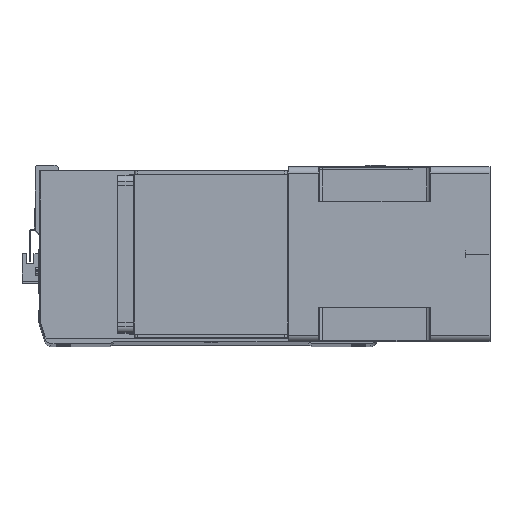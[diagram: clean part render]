
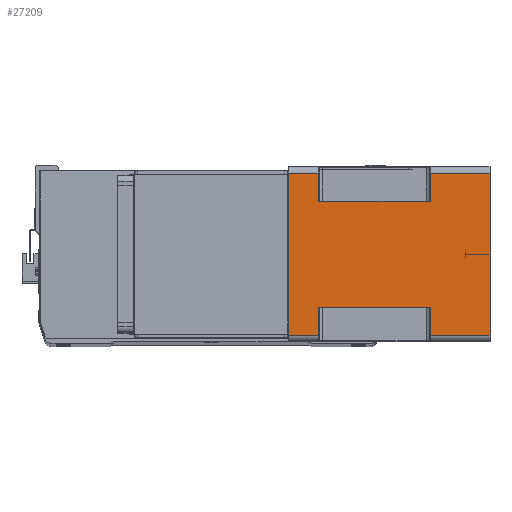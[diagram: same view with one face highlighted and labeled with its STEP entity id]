
A CAD part, top view. The second image highlights one B-rep face of the part: STEP entity #27209.
In plain terms, the highlighted planar face has unit normal (0, 0, 1) as drawn and (1, 0, 0) by its records, which use the part's own axes.
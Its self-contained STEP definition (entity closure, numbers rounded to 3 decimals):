
#202 = CARTESIAN_POINT ( 'NONE',  ( 71., 43., -115.5 ) ) ;
#413 = CARTESIAN_POINT ( 'NONE',  ( 71., -43., -115.5 ) ) ;
#479 = LINE ( 'NONE', #18800, #6119 ) ;
#1314 = DIRECTION ( 'NONE',  ( 0., 1., 0. ) ) ;
#1438 = VERTEX_POINT ( 'NONE', #4277 ) ;
#1885 = CARTESIAN_POINT ( 'NONE',  ( 71., 66., -164. ) ) ;
#2208 = CARTESIAN_POINT ( 'NONE',  ( 71., -66., -115.5 ) ) ;
#2446 = VECTOR ( 'NONE', #22531, 1000. ) ;
#2868 = LINE ( 'NONE', #4369, #30605 ) ;
#2968 = DIRECTION ( 'NONE',  ( 0., 1., 0. ) ) ;
#3056 = ORIENTED_EDGE ( 'NONE', *, *, #18939, .T. ) ;
#3149 = VECTOR ( 'NONE', #2968, 1000. ) ;
#3737 = VERTEX_POINT ( 'NONE', #27789 ) ;
#4277 = CARTESIAN_POINT ( 'NONE',  ( 71., -66., 0. ) ) ;
#4369 = CARTESIAN_POINT ( 'NONE',  ( 71., -43., -164. ) ) ;
#4829 = ORIENTED_EDGE ( 'NONE', *, *, #9706, .F. ) ;
#5000 = ORIENTED_EDGE ( 'NONE', *, *, #24201, .F. ) ;
#5315 = EDGE_CURVE ( 'NONE', #28330, #16804, #27332, .T. ) ;
#5541 = LINE ( 'NONE', #18426, #13731 ) ;
#6119 = VECTOR ( 'NONE', #16293, 1000. ) ;
#7164 = EDGE_CURVE ( 'NONE', #3737, #1438, #12137, .T. ) ;
#7246 = ORIENTED_EDGE ( 'NONE', *, *, #14702, .T. ) ;
#7456 = DIRECTION ( 'NONE',  ( 0., -1., 0. ) ) ;
#7630 = ORIENTED_EDGE ( 'NONE', *, *, #13333, .T. ) ;
#7692 = VECTOR ( 'NONE', #8899, 1000. ) ;
#7831 = LINE ( 'NONE', #202, #16404 ) ;
#8128 = VERTEX_POINT ( 'NONE', #30157 ) ;
#8899 = DIRECTION ( 'NONE',  ( 0., 1., 0. ) ) ;
#9082 = ORIENTED_EDGE ( 'NONE', *, *, #17500, .T. ) ;
#9534 = LINE ( 'NONE', #14760, #3149 ) ;
#9638 = ORIENTED_EDGE ( 'NONE', *, *, #30037, .F. ) ;
#9706 = EDGE_CURVE ( 'NONE', #1438, #8128, #30884, .T. ) ;
#10330 = LINE ( 'NONE', #23137, #24572 ) ;
#10345 = ORIENTED_EDGE ( 'NONE', *, *, #20127, .T. ) ;
#10494 = CARTESIAN_POINT ( 'NONE',  ( 71., -66., -164. ) ) ;
#11245 = PLANE ( 'NONE',  #23678 ) ;
#11298 = DIRECTION ( 'NONE',  ( 0., 1., 0. ) ) ;
#11577 = VECTOR ( 'NONE', #16995, 1000. ) ;
#12137 = LINE ( 'NONE', #10494, #2446 ) ;
#13333 = EDGE_CURVE ( 'NONE', #3737, #16564, #10330, .T. ) ;
#13731 = VECTOR ( 'NONE', #30383, 1000. ) ;
#13949 = CARTESIAN_POINT ( 'NONE',  ( 71., 43., -24.5 ) ) ;
#14702 = EDGE_CURVE ( 'NONE', #28330, #27538, #479, .T. ) ;
#14760 = CARTESIAN_POINT ( 'NONE',  ( 71., -66., -24.5 ) ) ;
#15164 = VERTEX_POINT ( 'NONE', #30695 ) ;
#15274 = VECTOR ( 'NONE', #22635, 1000. ) ;
#16293 = DIRECTION ( 'NONE',  ( 0., 1., 0. ) ) ;
#16316 = VECTOR ( 'NONE', #25517, 1000. ) ;
#16361 = EDGE_CURVE ( 'NONE', #15164, #17211, #7831, .T. ) ;
#16404 = VECTOR ( 'NONE', #7456, 1000. ) ;
#16564 = VERTEX_POINT ( 'NONE', #24698 ) ;
#16804 = VERTEX_POINT ( 'NONE', #2208 ) ;
#16995 = DIRECTION ( 'NONE',  ( 0., -1., 0. ) ) ;
#17078 = LINE ( 'NONE', #1885, #16316 ) ;
#17211 = VERTEX_POINT ( 'NONE', #18266 ) ;
#17500 = EDGE_CURVE ( 'NONE', #21352, #25387, #9534, .T. ) ;
#17523 = VECTOR ( 'NONE', #30018, 1000. ) ;
#18231 = CARTESIAN_POINT ( 'NONE',  ( 71., -66., -164. ) ) ;
#18266 = CARTESIAN_POINT ( 'NONE',  ( 71., 43., -115.5 ) ) ;
#18426 = CARTESIAN_POINT ( 'NONE',  ( 71., 66., -164. ) ) ;
#18661 = CARTESIAN_POINT ( 'NONE',  ( 71., -66., -164. ) ) ;
#18707 = FACE_OUTER_BOUND ( 'NONE', #29651, .T. ) ;
#18800 = CARTESIAN_POINT ( 'NONE',  ( 71., -66., -164. ) ) ;
#18939 = EDGE_CURVE ( 'NONE', #20458, #16804, #23219, .T. ) ;
#19939 = CARTESIAN_POINT ( 'NONE',  ( 71., 43., -164. ) ) ;
#20127 = EDGE_CURVE ( 'NONE', #27538, #15164, #5541, .T. ) ;
#20458 = VERTEX_POINT ( 'NONE', #413 ) ;
#20537 = LINE ( 'NONE', #19939, #17523 ) ;
#20731 = EDGE_CURVE ( 'NONE', #25387, #8128, #17078, .T. ) ;
#21011 = DIRECTION ( 'NONE',  ( 0., 0., 1. ) ) ;
#21352 = VERTEX_POINT ( 'NONE', #13949 ) ;
#22283 = CARTESIAN_POINT ( 'NONE',  ( 71., 66., -24.5 ) ) ;
#22531 = DIRECTION ( 'NONE',  ( 0., 0., 1. ) ) ;
#22635 = DIRECTION ( 'NONE',  ( 0., 0., 1. ) ) ;
#23137 = CARTESIAN_POINT ( 'NONE',  ( 71., -43., -24.5 ) ) ;
#23219 = LINE ( 'NONE', #24524, #11577 ) ;
#23678 = AXIS2_PLACEMENT_3D ( 'NONE', #27834, #27722, #1314 ) ;
#24189 = ORIENTED_EDGE ( 'NONE', *, *, #5315, .F. ) ;
#24201 = EDGE_CURVE ( 'NONE', #21352, #17211, #20537, .T. ) ;
#24524 = CARTESIAN_POINT ( 'NONE',  ( 71., -66., -115.5 ) ) ;
#24572 = VECTOR ( 'NONE', #11298, 1000. ) ;
#24698 = CARTESIAN_POINT ( 'NONE',  ( 71., -43., -24.5 ) ) ;
#24805 = ORIENTED_EDGE ( 'NONE', *, *, #20731, .T. ) ;
#25387 = VERTEX_POINT ( 'NONE', #22283 ) ;
#25517 = DIRECTION ( 'NONE',  ( 0., 0., 1. ) ) ;
#26961 = CARTESIAN_POINT ( 'NONE',  ( 71., 66., -164. ) ) ;
#27209 = ADVANCED_FACE ( 'NONE', ( #18707 ), #11245, .T. ) ;
#27332 = LINE ( 'NONE', #18231, #15274 ) ;
#27398 = ORIENTED_EDGE ( 'NONE', *, *, #16361, .T. ) ;
#27538 = VERTEX_POINT ( 'NONE', #26961 ) ;
#27722 = DIRECTION ( 'NONE',  ( 1., 0., 0. ) ) ;
#27742 = CARTESIAN_POINT ( 'NONE',  ( 71., -66., 0. ) ) ;
#27789 = CARTESIAN_POINT ( 'NONE',  ( 71., -66., -24.5 ) ) ;
#27834 = CARTESIAN_POINT ( 'NONE',  ( 71., -66., -164. ) ) ;
#28330 = VERTEX_POINT ( 'NONE', #18661 ) ;
#29651 = EDGE_LOOP ( 'NONE', ( #9638, #3056, #24189, #7246, #10345, #27398, #5000, #9082, #24805, #4829, #31073, #7630 ) ) ;
#30018 = DIRECTION ( 'NONE',  ( 0., 0., -1. ) ) ;
#30037 = EDGE_CURVE ( 'NONE', #20458, #16564, #2868, .T. ) ;
#30157 = CARTESIAN_POINT ( 'NONE',  ( 71., 66., 0. ) ) ;
#30383 = DIRECTION ( 'NONE',  ( 0., 0., 1. ) ) ;
#30605 = VECTOR ( 'NONE', #21011, 1000. ) ;
#30695 = CARTESIAN_POINT ( 'NONE',  ( 71., 66., -115.5 ) ) ;
#30884 = LINE ( 'NONE', #27742, #7692 ) ;
#31073 = ORIENTED_EDGE ( 'NONE', *, *, #7164, .F. ) ;
